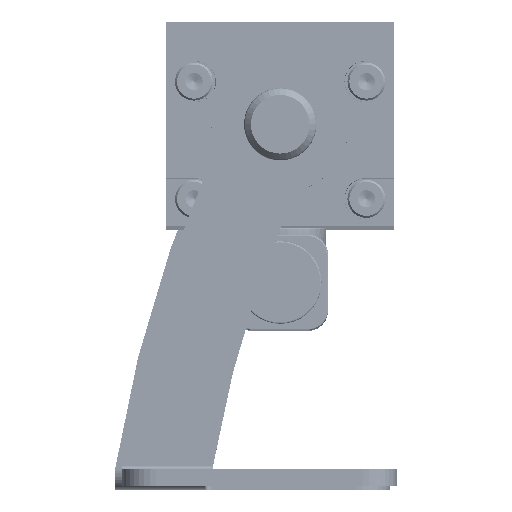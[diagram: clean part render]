
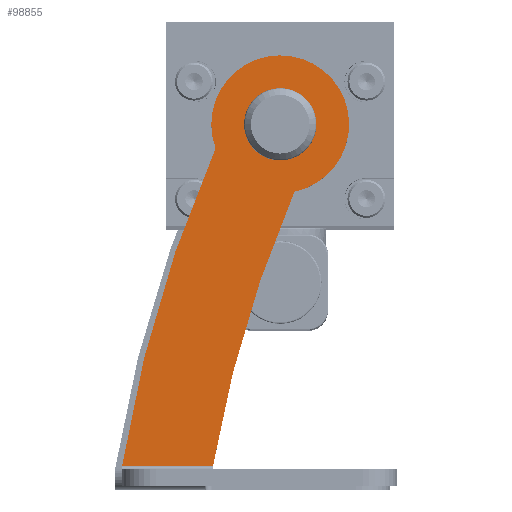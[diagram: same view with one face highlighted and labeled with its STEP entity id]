
A CAD part, top view. The second image highlights one B-rep face of the part: STEP entity #98855.
In plain terms, the highlighted planar face has unit normal (0, 0, 1) as drawn and (0, -1, 0) by its records, which use the part's own axes.
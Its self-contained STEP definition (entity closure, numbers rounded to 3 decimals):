
#97618=CARTESIAN_POINT('',(3.,12.5,51.25));
#97619=DIRECTION('',(0.,1.,0.));
#97620=DIRECTION('',(1.,0.,0.));
#97621=AXIS2_PLACEMENT_3D('',#97618,#97619,#97620);
#97623=CARTESIAN_POINT('',(3.,12.5,51.25));
#97624=DIRECTION('',(0.,1.,0.));
#97625=DIRECTION('',(-1.,0.,0.));
#97626=AXIS2_PLACEMENT_3D('',#97623,#97624,#97625);
#97628=CARTESIAN_POINT('',(3.,12.5,51.25));
#97629=DIRECTION('',(0.,1.,0.));
#97630=DIRECTION('',(-0.937,0.,-0.348));
#97631=AXIS2_PLACEMENT_3D('',#97628,#97629,#97630);
#97633=CARTESIAN_POINT('',(167.662,12.5,-28.464));
#97634=DIRECTION('',(0.,1.,0.));
#97635=DIRECTION('',(-0.985,0.,0.171));
#97636=AXIS2_PLACEMENT_3D('',#97633,#97634,#97635);
#97638=CARTESIAN_POINT('',(167.662,12.5,-28.464));
#97639=DIRECTION('',(0.,1.,0.));
#97640=DIRECTION('',(-0.987,0.,0.159));
#97641=AXIS2_PLACEMENT_3D('',#97638,#97639,#97640);
#97880=DIRECTION('',(-1.,0.,0.));
#97881=VECTOR('',#97880,13.18);
#97882=CARTESIAN_POINT('',(-6.74,12.5,1.75));
#97883=LINE('',#97882,#97881);
#98562=CARTESIAN_POINT('',(5.75,12.5,51.25));
#98563=CARTESIAN_POINT('',(0.25,12.5,51.25));
#98564=VERTEX_POINT('',#98562);
#98565=VERTEX_POINT('',#98563);
#98566=CARTESIAN_POINT('',(-6.374,12.5,47.768));
#98567=CARTESIAN_POINT('',(5.062,12.5,41.465));
#98568=VERTEX_POINT('',#98566);
#98569=VERTEX_POINT('',#98567);
#98570=CARTESIAN_POINT('',(-6.74,12.5,1.75));
#98571=CARTESIAN_POINT('',(-19.92,12.5,1.75));
#98572=VERTEX_POINT('',#98570);
#98573=VERTEX_POINT('',#98571);
#98834=CARTESIAN_POINT('',(-20.,12.5,-1.25));
#98835=DIRECTION('',(0.,1.,0.));
#98836=DIRECTION('',(-1.,0.,0.));
#98837=AXIS2_PLACEMENT_3D('',#98834,#98835,#98836);
#98838=PLANE('',#98837);
#98840=ORIENTED_EDGE('',*,*,#98839,.T.);
#98842=ORIENTED_EDGE('',*,*,#98841,.F.);
#98844=ORIENTED_EDGE('',*,*,#98843,.T.);
#98846=ORIENTED_EDGE('',*,*,#98845,.T.);
#98847=EDGE_LOOP('',(#98840,#98842,#98844,#98846));
#98848=FACE_OUTER_BOUND('',#98847,.F.);
#98850=ORIENTED_EDGE('',*,*,#98849,.F.);
#98852=ORIENTED_EDGE('',*,*,#98851,.F.);
#98853=EDGE_LOOP('',(#98850,#98852));
#98854=FACE_BOUND('',#98853,.F.);
#98855=ADVANCED_FACE('',(#98848,#98854),#98838,.F.);
#97622=CIRCLE('',#97621,2.75);
#97627=CIRCLE('',#97626,2.75);
#97632=CIRCLE('',#97631,10.);
#97637=CIRCLE('',#97636,177.);
#97642=CIRCLE('',#97641,190.);
#98839=EDGE_CURVE('',#98568,#98569,#97632,.T.);
#98841=EDGE_CURVE('',#98572,#98569,#97637,.T.);
#98843=EDGE_CURVE('',#98572,#98573,#97883,.T.);
#98845=EDGE_CURVE('',#98573,#98568,#97642,.T.);
#98849=EDGE_CURVE('',#98564,#98565,#97622,.T.);
#98851=EDGE_CURVE('',#98565,#98564,#97627,.T.);
